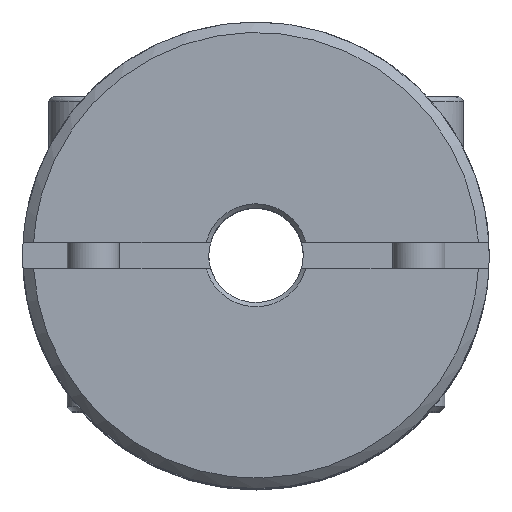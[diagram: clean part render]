
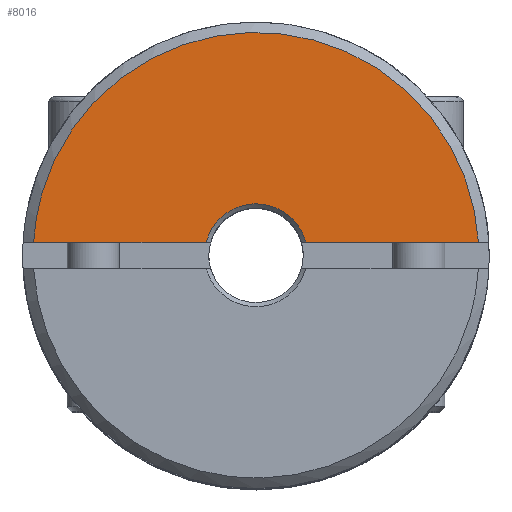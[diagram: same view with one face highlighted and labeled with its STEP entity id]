
A CAD part, top view. The second image highlights one B-rep face of the part: STEP entity #8016.
In plain terms, the highlighted free-form (B-spline) face has degree [3, 3] with [4, 4] control points.
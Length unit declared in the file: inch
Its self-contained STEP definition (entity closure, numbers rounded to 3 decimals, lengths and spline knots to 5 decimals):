
#1040=CARTESIAN_POINT('',(0.83418,0.04921,
1.50049));
#1080=DIRECTION('',(1.,0.,0.));
#1081=VECTOR('',#1080,0.64765);
#1082=CARTESIAN_POINT('',(0.18653,0.04921,
1.50049));
#1083=LINE('',#1082,#1081);
#1084=CARTESIAN_POINT('',(-0.18653,0.04921,
1.50049));
#1085=CARTESIAN_POINT('',(-0.18153,0.06819,
1.50049));
#1086=CARTESIAN_POINT('',(-0.16505,0.10668,
1.50049));
#1087=CARTESIAN_POINT('',(-0.12757,0.14764,
1.50049));
#1088=CARTESIAN_POINT('',(-0.09056,0.17138,
1.50049));
#1089=CARTESIAN_POINT('',(-0.06065,0.18406,
1.50049));
#1090=CARTESIAN_POINT('',(-0.03508,0.19018,
1.50049));
#1091=CARTESIAN_POINT('',(-0.01483,0.19254,
1.50049));
#1092=CARTESIAN_POINT('',(0.,0.1931,1.50049));
#1093=CARTESIAN_POINT('',(0.01483,0.19254,
1.50049));
#1094=CARTESIAN_POINT('',(0.03508,0.19018,
1.50049));
#1095=CARTESIAN_POINT('',(0.06065,0.18406,
1.50049));
#1096=CARTESIAN_POINT('',(0.09056,0.17138,
1.50049));
#1097=CARTESIAN_POINT('',(0.12757,0.14764,
1.50049));
#1098=CARTESIAN_POINT('',(0.16505,0.10668,
1.50049));
#1099=CARTESIAN_POINT('',(0.18153,0.06819,
1.50049));
#1100=CARTESIAN_POINT('',(0.18653,0.04921,
1.50049));
#1102=DIRECTION('',(1.,0.,0.));
#1103=VECTOR('',#1102,0.64765);
#1104=CARTESIAN_POINT('',(-0.83418,0.04921,
1.50049));
#1105=LINE('',#1104,#1103);
#1106=CARTESIAN_POINT('',(0.83418,0.04921,
1.50049));
#1107=CARTESIAN_POINT('',(0.83136,0.09692,
1.50049));
#1108=CARTESIAN_POINT('',(0.81731,0.19517,
1.50049));
#1109=CARTESIAN_POINT('',(0.76706,0.34423,
1.50049));
#1110=CARTESIAN_POINT('',(0.68622,0.48631,
1.50049));
#1111=CARTESIAN_POINT('',(0.57689,0.61219,
1.50049));
#1112=CARTESIAN_POINT('',(0.44476,0.71384,
1.50049));
#1113=CARTESIAN_POINT('',(0.32264,0.77404,
1.50049));
#1114=CARTESIAN_POINT('',(0.22237,0.80676,
1.50049));
#1115=CARTESIAN_POINT('',(0.14698,0.82378,
1.50049));
#1116=CARTESIAN_POINT('',(0.08487,0.83195,
1.50049));
#1117=CARTESIAN_POINT('',(0.03598,0.83512,
1.50049));
#1118=CARTESIAN_POINT('',(0.,0.83589,1.50049));
#1119=CARTESIAN_POINT('',(-0.03598,0.83512,
1.50049));
#1120=CARTESIAN_POINT('',(-0.08487,0.83195,
1.50049));
#1121=CARTESIAN_POINT('',(-0.14698,0.82378,
1.50049));
#1122=CARTESIAN_POINT('',(-0.22237,0.80676,
1.50049));
#1123=CARTESIAN_POINT('',(-0.32264,0.77404,
1.50049));
#1124=CARTESIAN_POINT('',(-0.44476,0.71384,
1.50049));
#1125=CARTESIAN_POINT('',(-0.57689,0.61219,
1.50049));
#1126=CARTESIAN_POINT('',(-0.68622,0.48631,
1.50049));
#1127=CARTESIAN_POINT('',(-0.76706,0.34423,
1.50049));
#1128=CARTESIAN_POINT('',(-0.81731,0.19517,
1.50049));
#1129=CARTESIAN_POINT('',(-0.83136,0.09692,
1.50049));
#1130=CARTESIAN_POINT('',(-0.83418,0.04921,
1.50049));
#1157=CARTESIAN_POINT('',(-0.18653,0.04921,
1.50049));
#5676=VERTEX_POINT('',#1157);
#5677=CARTESIAN_POINT('',(-0.83418,0.04921,
1.50049));
#5678=VERTEX_POINT('',#5677);
#5682=VERTEX_POINT('',#1040);
#5684=CARTESIAN_POINT('',(0.18653,0.04921,
1.50049));
#5685=VERTEX_POINT('',#5684);
#7991=CARTESIAN_POINT('',(-0.86755,0.03348,
1.50049));
#7992=CARTESIAN_POINT('',(-0.86755,0.30611,
1.50049));
#7993=CARTESIAN_POINT('',(-0.86755,0.57873,
1.50049));
#7994=CARTESIAN_POINT('',(-0.86755,0.85136,
1.50049));
#7995=CARTESIAN_POINT('',(-0.28918,0.03348,
1.50049));
#7996=CARTESIAN_POINT('',(-0.28918,0.30611,
1.50049));
#7997=CARTESIAN_POINT('',(-0.28918,0.57873,
1.50049));
#7998=CARTESIAN_POINT('',(-0.28918,0.85136,
1.50049));
#7999=CARTESIAN_POINT('',(0.28918,0.03348,
1.50049));
#8000=CARTESIAN_POINT('',(0.28918,0.30611,
1.50049));
#8001=CARTESIAN_POINT('',(0.28918,0.57873,
1.50049));
#8002=CARTESIAN_POINT('',(0.28918,0.85136,
1.50049));
#8003=CARTESIAN_POINT('',(0.86755,0.03348,
1.50049));
#8004=CARTESIAN_POINT('',(0.86755,0.30611,
1.50049));
#8005=CARTESIAN_POINT('',(0.86755,0.57873,
1.50049));
#8006=CARTESIAN_POINT('',(0.86755,0.85136,
1.50049));
#8007=B_SPLINE_SURFACE_WITH_KNOTS('',3,3,((#7991,#7992,#7993,#7994),(#7995,
#7996,#7997,#7998),(#7999,#8000,#8001,#8002),(#8003,#8004,#8005,#8006)),
.UNSPECIFIED.,.F.,.F.,.F.,(4,4),(4,4),(-2.20357,2.20357),(
0.08505,2.16245),.UNSPECIFIED.);
#8008=ORIENTED_EDGE('',*,*,#7942,.F.);
#8010=ORIENTED_EDGE('',*,*,#8009,.F.);
#8012=ORIENTED_EDGE('',*,*,#8011,.F.);
#8013=ORIENTED_EDGE('',*,*,#7976,.F.);
#8014=EDGE_LOOP('',(#8008,#8010,#8012,#8013));
#8015=FACE_OUTER_BOUND('',#8014,.F.);
#1101=B_SPLINE_CURVE_WITH_KNOTS('',3,(#1084,#1085,#1086,#1087,#1088,#1089,#1090,
#1091,#1092,#1093,#1094,#1095,#1096,#1097,#1098,#1099,#1100),.UNSPECIFIED.,.F.,
.F.,(4,1,1,1,1,1,1,1,1,1,1,1,1,1,4),(0.,0.125,0.25,0.3125,0.375,
0.4375,0.46875,0.5,0.53125,0.5625,0.625,0.6875,0.75,0.875,
1.),.UNSPECIFIED.);
#1131=B_SPLINE_CURVE_WITH_KNOTS('',3,(#1106,#1107,#1108,#1109,#1110,#1111,#1112,
#1113,#1114,#1115,#1116,#1117,#1118,#1119,#1120,#1121,#1122,#1123,#1124,#1125,
#1126,#1127,#1128,#1129,#1130),.UNSPECIFIED.,.F.,.F.,(4,1,1,1,1,1,1,1,1,1,1,1,1,
1,1,1,1,1,1,1,1,1,4),(0.,0.0625,0.125,0.1875,0.25,0.3125,0.375,
0.40625,0.4375,0.46875,0.48438,0.5,0.51563,0.53125,0.5625,
0.59375,0.625,0.6875,0.75,0.8125,0.875,0.9375,1.),
.UNSPECIFIED.);
#7942=EDGE_CURVE('',#5685,#5682,#1083,.T.);
#7976=EDGE_CURVE('',#5682,#5678,#1131,.T.);
#8009=EDGE_CURVE('',#5676,#5685,#1101,.T.);
#8011=EDGE_CURVE('',#5678,#5676,#1105,.T.);
#8016=ADVANCED_FACE('',(#8015),#8007,.T.);
